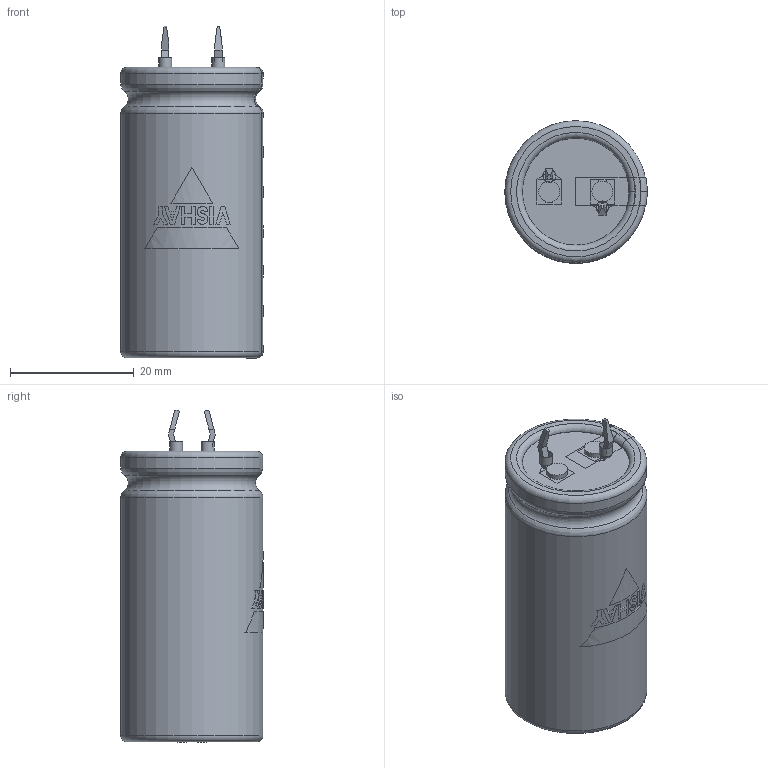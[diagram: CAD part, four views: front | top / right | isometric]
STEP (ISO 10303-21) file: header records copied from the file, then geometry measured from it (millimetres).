
FILE_DESCRIPTION(('FreeCAD Model'),'2;1');
FILE_NAME( 'C:/Users/Gebruiker/Documents/FreeCAD/SnapIn_22x45_2pin_5.8.step', '2020-11-12T19:57:45',('Author'),(''), 'Open CASCADE STEP processor 6.8','FreeCAD','Unknown');
FILE_SCHEMA(('AUTOMOTIVE_DESIGN_CC2 { 1 2 10303 214 -1 1 5 4 }'));
Length unit declared in the file: millimetre
Products named in the file (9): ASSEMBLY; TerminalMin; TerminalPlus; PCBHoles; Disc; BottomInsulation; Can3D; InkMinusBar; InkLogo
Assembly tree (8 placements, depth 2):
  ASSEMBLY
    TerminalMin
    TerminalPlus
    PCBHoles
    Disc
    BottomInsulation
    Can3D
    InkMinusBar
    InkLogo
Bounding box: 23.05 x 23.05 x 53.75 mm (x, y, z)
Volume: 21770.5 mm3; surface area: 9470.9 mm2
Topology: 16 solids, 16 shells, 205 faces, 517 edges, 339 vertices
Faces by surface type: plane 158, cylinder 29, torus 18
Full cylindrical faces by diameter (mm): 2 x2, 2.1 x2, 3.4 x2, 17.3 x1, 18.4 x2, 23 x2
Entity records: 21044 total; most frequent: CARTESIAN_POINT 9512, DIRECTION 1806, ORIENTED_EDGE 1034, PCURVE 1034, DEFINITIONAL_REPRESENTATION 1034, LINE 1015, VECTOR 1015, EDGE_CURVE 517
